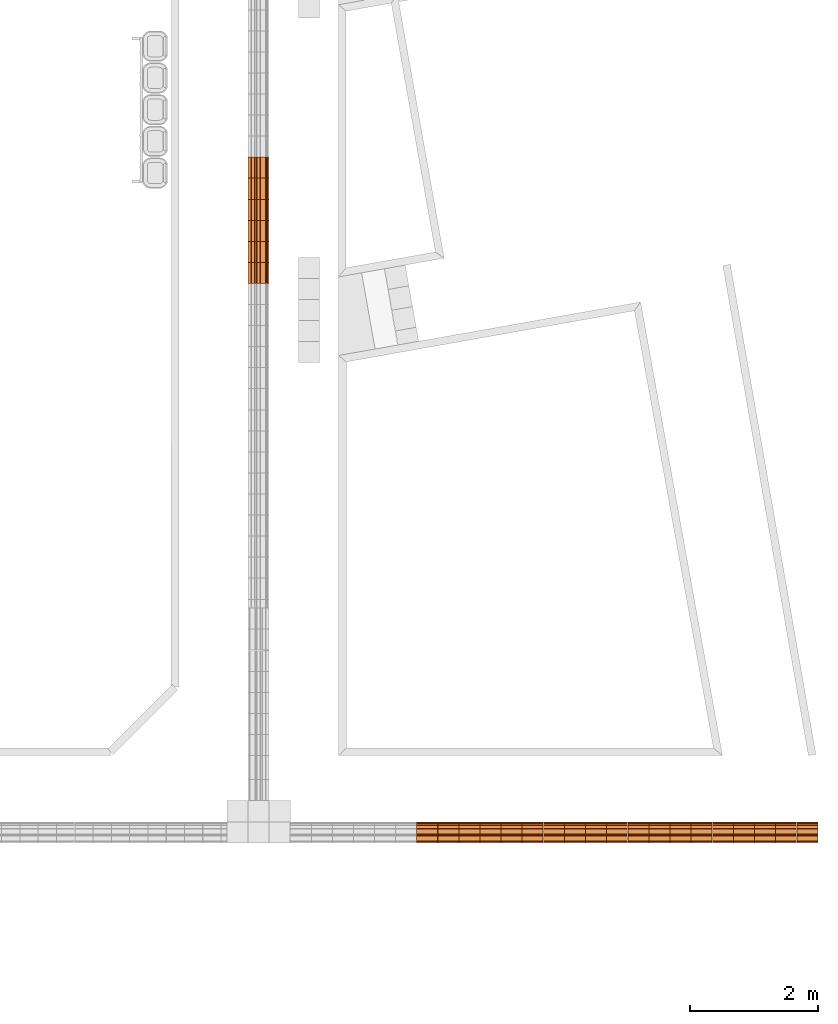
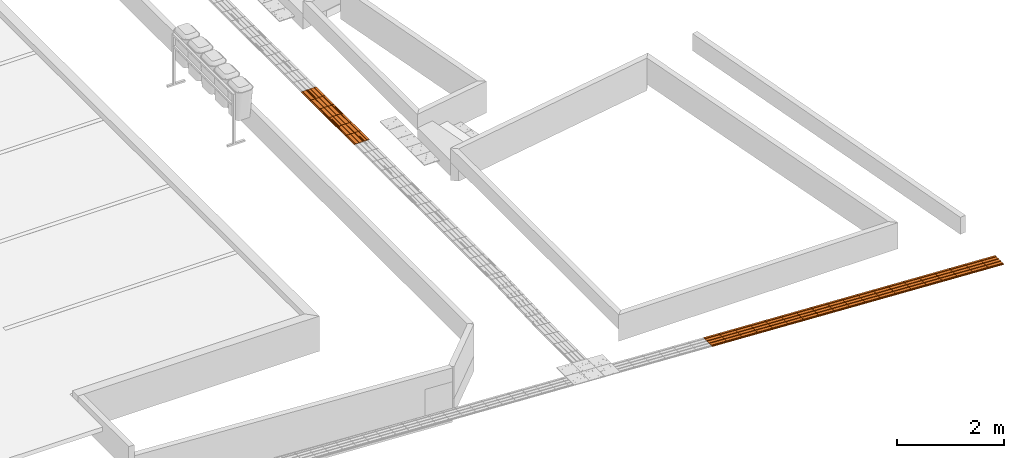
# One storey, part 194 of 237: 25 proxies.
"""IFC2X3 building model written with IfcOpenShell, lengths in millimetres."""

from ifc_helpers import new_model, entity, si_unit, converted_unit, derived_unit, money_unit, direction, frame, origin_with_axes, place, context, subcontext, project, spatial, open_shell, surface_model, source, transform, mapped, type_object, element, save


model = new_model("IFC2X3")

# Units and contexts
model_context = context("Model", 3, precision=0.01, world=origin_with_axes(), true_north=direction((0.0, 1.0)))
body_context = subcontext(model_context, "Body", "Model", "MODEL_VIEW")
ifc_project = project(units=[si_unit("LENGTHUNIT", "METRE", prefix="MILLI"), si_unit("AREAUNIT", "SQUARE_METRE"), si_unit("VOLUMEUNIT", "CUBIC_METRE"), converted_unit("PLANEANGLEUNIT", "DEGREE", entity("IfcPlaneAngleMeasure", 0.0174532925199), si_unit("PLANEANGLEUNIT", "RADIAN"), dimensions=[0, 0, 0, 0, 0, 0, 0]), money_unit("USD"), converted_unit("TIMEUNIT", "Year", entity("IfcTimeMeasure", 31556926.0), si_unit("TIMEUNIT", "SECOND"), dimensions=[0, 0, 1, 0, 0, 0, 0]), si_unit("MASSUNIT", "GRAM", prefix="KILO"), si_unit("THERMODYNAMICTEMPERATUREUNIT", "DEGREE_CELSIUS"), si_unit("LUMINOUSINTENSITYUNIT", "LUMEN"), si_unit("ENERGYUNIT", "JOULE", prefix="MEGA"), derived_unit("THERMALCONDUCTANCEUNIT", [(si_unit("POWERUNIT", "WATT"), 1), (si_unit("LENGTHUNIT", "METRE"), -1), (si_unit("THERMODYNAMICTEMPERATUREUNIT", "KELVIN"), -1)]), derived_unit("SPECIFICHEATCAPACITYUNIT", [(si_unit("ENERGYUNIT", "JOULE"), 1), (si_unit("MASSUNIT", "GRAM", prefix="KILO"), -1), (si_unit("THERMODYNAMICTEMPERATUREUNIT", "KELVIN"), -1)]), derived_unit("MASSDENSITYUNIT", [(si_unit("MASSUNIT", "GRAM", prefix="KILO"), 1), (si_unit("VOLUMEUNIT", "CUBIC_METRE"), -1)])], contexts=[model_context])

# Site, building, storey
site_placement = place(None, origin_with_axes())
site = spatial("IfcSite", under=ifc_project, at=site_placement, Name="Local", CompositionType="ELEMENT")
building_placement = place(site_placement, origin_with_axes())
building = spatial("IfcBuilding", under=site, at=building_placement, Name="Construção", CompositionType="ELEMENT")
storey_placement = place(building_placement, origin_with_axes())
storey = spatial("IfcBuildingStorey", under=building, at=storey_placement, Name="Pavimento Térreo", CompositionType="ELEMENT", Elevation=0.0)

# Proxies
building_element_proxy_type = type_object("IfcBuildingElementProxyType", Name="Piso Direcional 27", PredefinedType="NOTDEFINED")
shared_shape_1 = source(origin_with_axes(), body_context, "Body", "SurfaceModel", [
    surface_model("IfcShellBasedSurfaceModel", [(0.0, -47.258225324, 4.02852049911), (330.0, -47.258225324, 4.02852049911), (330.0, -41.665004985, 10.6951871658), (0.0, -41.665004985, 10.6951871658)], [open_shell([[[0, 1, 2, 3]]])]),
    surface_model("IfcShellBasedSurfaceModel", [(330.0, -153.529411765, -9.30481283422), (330.0, 176.470588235, -9.30481283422), (330.0, 176.470588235, 4.02852049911), (330.0, 154.097706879, 4.02852049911), (330.0, 148.50448654, 10.6951871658), (330.0, 126.131605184, 10.6951871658), (330.0, 120.538384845, 4.02852049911), (330.0, 70.1994017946, 4.02852049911), (330.0, 64.6061814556, 10.6951871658), (330.0, 42.2333000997, 10.6951871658), (330.0, 36.6400797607, 4.02852049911), (330.0, -13.6989032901, 4.02852049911), (330.0, -19.2921236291, 10.6951871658), (330.0, -41.665004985, 10.6951871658), (330.0, -47.258225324, 4.02852049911), (330.0, -97.5972083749, 4.02852049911), (330.0, -103.190428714, 10.6951871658), (330.0, -125.56331007, 10.6951871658), (330.0, -131.156530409, 4.02852049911), (330.0, -153.529411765, 4.02852049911)], [open_shell([[[0, 1, 2, 3, 4, 5, 6, 7, 8, 9, 10, 11, 12, 13, 14, 15, 16, 17, 18, 19]]])]),
    surface_model("IfcShellBasedSurfaceModel", [(0.0, -19.2921236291, 10.6951871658), (330.0, -19.2921236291, 10.6951871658), (330.0, -13.6989032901, 4.02852049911), (0.0, -13.6989032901, 4.02852049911)], [open_shell([[[0, 1, 2, 3]]])]),
    surface_model("IfcShellBasedSurfaceModel", [(0.0, -103.190428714, 10.6951871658), (330.0, -103.190428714, 10.6951871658), (330.0, -97.5972083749, 4.02852049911), (0.0, -97.5972083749, 4.02852049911)], [open_shell([[[0, 1, 2, 3]]])]),
    surface_model("IfcShellBasedSurfaceModel", [(0.0, 64.6061814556, 10.6951871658), (330.0, 64.6061814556, 10.6951871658), (330.0, 70.1994017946, 4.02852049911), (0.0, 70.1994017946, 4.02852049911)], [open_shell([[[0, 1, 2, 3]]])]),
    surface_model("IfcShellBasedSurfaceModel", [(0.0, 36.6400797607, 4.02852049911), (330.0, 36.6400797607, 4.02852049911), (330.0, 42.2333000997, 10.6951871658), (0.0, 42.2333000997, 10.6951871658)], [open_shell([[[0, 1, 2, 3]]])]),
    surface_model("IfcShellBasedSurfaceModel", [(0.0, -131.156530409, 4.02852049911), (330.0, -131.156530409, 4.02852049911), (330.0, -125.56331007, 10.6951871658), (0.0, -125.56331007, 10.6951871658)], [open_shell([[[0, 1, 2, 3]]])]),
    surface_model("IfcShellBasedSurfaceModel", [(0.0, 176.470588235, 4.02852049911), (0.0, 154.097706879, 4.02852049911), (330.0, 154.097706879, 4.02852049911), (330.0, 176.470588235, 4.02852049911)], [open_shell([[[0, 1, 2, 3]]])]),
    surface_model("IfcShellBasedSurfaceModel", [(0.0, 120.538384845, 4.02852049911), (330.0, 120.538384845, 4.02852049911), (330.0, 126.131605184, 10.6951871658), (0.0, 126.131605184, 10.6951871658)], [open_shell([[[0, 1, 2, 3]]])]),
    surface_model("IfcShellBasedSurfaceModel", [(0.0, 148.50448654, 10.6951871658), (330.0, 148.50448654, 10.6951871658), (330.0, 154.097706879, 4.02852049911), (0.0, 154.097706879, 4.02852049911)], [open_shell([[[0, 1, 2, 3]]])]),
    surface_model("IfcShellBasedSurfaceModel", [(0.0, 36.6400797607, 4.02852049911), (0.0, -13.6989032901, 4.02852049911), (330.0, -13.6989032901, 4.02852049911), (330.0, 36.6400797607, 4.02852049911)], [open_shell([[[0, 1, 2, 3]]])]),
    surface_model("IfcShellBasedSurfaceModel", [(0.0, 120.538384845, 4.02852049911), (0.0, 70.1994017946, 4.02852049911), (330.0, 70.1994017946, 4.02852049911), (330.0, 120.538384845, 4.02852049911)], [open_shell([[[0, 1, 2, 3]]])]),
    surface_model("IfcShellBasedSurfaceModel", [(0.0, 148.50448654, 10.6951871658), (0.0, 126.131605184, 10.6951871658), (330.0, 126.131605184, 10.6951871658), (330.0, 148.50448654, 10.6951871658)], [open_shell([[[0, 1, 2, 3]]])]),
    surface_model("IfcShellBasedSurfaceModel", [(0.0, 120.538384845, 4.02852049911), (0.0, 126.131605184, 10.6951871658), (0.0, 148.50448654, 10.6951871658), (0.0, 154.097706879, 4.02852049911), (0.0, 176.470588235, 4.02852049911), (0.0, 176.470588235, -9.30481283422), (0.0, -153.529411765, -9.30481283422), (0.0, -153.529411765, 4.02852049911), (0.0, -131.156530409, 4.02852049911), (0.0, -125.56331007, 10.6951871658), (0.0, -103.190428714, 10.6951871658), (0.0, -97.5972083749, 4.02852049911), (0.0, -47.258225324, 4.02852049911), (0.0, -41.665004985, 10.6951871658), (0.0, -19.2921236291, 10.6951871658), (0.0, -13.6989032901, 4.02852049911), (0.0, 36.6400797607, 4.02852049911), (0.0, 42.2333000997, 10.6951871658), (0.0, 64.6061814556, 10.6951871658), (0.0, 70.1994017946, 4.02852049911)], [open_shell([[[0, 1, 2, 3, 4, 5, 6, 7, 8, 9, 10, 11, 12, 13, 14, 15, 16, 17, 18, 19]]])]),
    surface_model("IfcShellBasedSurfaceModel", [(330.0, -41.665004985, 10.6951871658), (330.0, -19.2921236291, 10.6951871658), (0.0, -19.2921236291, 10.6951871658), (0.0, -41.665004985, 10.6951871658)], [open_shell([[[0, 1, 2, 3]]])]),
    surface_model("IfcShellBasedSurfaceModel", [(0.0, -47.258225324, 4.02852049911), (0.0, -97.5972083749, 4.02852049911), (330.0, -97.5972083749, 4.02852049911), (330.0, -47.258225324, 4.02852049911)], [open_shell([[[0, 1, 2, 3]]])]),
    surface_model("IfcShellBasedSurfaceModel", [(330.0, 42.2333000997, 10.6951871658), (330.0, 64.6061814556, 10.6951871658), (0.0, 64.6061814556, 10.6951871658), (0.0, 42.2333000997, 10.6951871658)], [open_shell([[[0, 1, 2, 3]]])]),
    surface_model("IfcShellBasedSurfaceModel", [(330.0, -125.56331007, 10.6951871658), (330.0, -103.190428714, 10.6951871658), (0.0, -103.190428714, 10.6951871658), (0.0, -125.56331007, 10.6951871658)], [open_shell([[[0, 1, 2, 3]]])]),
    surface_model("IfcShellBasedSurfaceModel", [(330.0, 176.470588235, -9.30481283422), (0.0, 176.470588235, -9.30481283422), (0.0, 176.470588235, 4.02852049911), (330.0, 176.470588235, 4.02852049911)], [open_shell([[[0, 1, 2, 3]]])]),
    surface_model("IfcShellBasedSurfaceModel", [(330.0, -153.529411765, -9.30481283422), (0.0, -153.529411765, -9.30481283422), (0.0, 176.470588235, -9.30481283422), (330.0, 176.470588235, -9.30481283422)], [open_shell([[[0, 1, 2, 3]]])]),
    surface_model("IfcShellBasedSurfaceModel", [(330.0, -153.529411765, 4.02852049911), (330.0, -131.156530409, 4.02852049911), (0.0, -131.156530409, 4.02852049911), (0.0, -153.529411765, 4.02852049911)], [open_shell([[[0, 1, 2, 3]]])]),
    surface_model("IfcShellBasedSurfaceModel", [(0.0, -153.529411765, -9.30481283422), (330.0, -153.529411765, -9.30481283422), (330.0, -153.529411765, 4.02852049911), (0.0, -153.529411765, 4.02852049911)], [open_shell([[[0, 1, 2, 3]]])]),
])
for number, where, z_axis, x_axis, name in (
    (1, (135346.086311, 21403.8682381, -7938.92704592), (0.0, 0.0, 1.0), (0.0, -1.0, 0.0), "Objeto-0055"),
    (2, (135346.086311, 21073.898202, -7938.92704592), (0.0, 0.0, 1.0), (0.0, -1.0, 0.0), "Objeto-0055"),
    (3, (135346.086311, 20743.9281659, -7938.92704592), (0.0, 0.0, 1.0), (0.0, -1.0, 0.0), "Objeto-0055"),
    (4, (135346.086311, 20413.9581298, -7938.92704592), (0.0, 0.0, 1.0), (0.0, -1.0, 0.0), "Objeto-0055"),
    (5, (135346.086311, 20083.9880936, -7938.92704592), (0.0, 0.0, 1.0), (0.0, -1.0, 0.0), "Objeto-0055"),
    (6, (135346.086311, 19754.0180575, -7938.92704592), (0.0, 0.0, 1.0), (0.0, -1.0, 0.0), "Objeto-0055"),
):
    element("IfcBuildingElementProxy", number, at=place(storey_placement, frame(where, z_axis=z_axis, x_axis=x_axis)), inside=storey, type_object=building_element_proxy_type, Name=name, context=body_context, shape_type="MappedRepresentation", body=[
        mapped(shared_shape_1, transform((0.0, 0.0, 0.0))),
    ])
shared_shape_2 = source(origin_with_axes(), body_context, "Body", "SurfaceModel", [
    surface_model("IfcShellBasedSurfaceModel", [(-0.210134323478, -47.258225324, 4.02303628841), (329.340621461, -47.258225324, 21.2363846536), (328.992877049, -41.665004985, 27.8939756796), (-0.557878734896, -41.665004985, 10.6806273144)], [open_shell([[[0, 1, 2, 3]]])]),
    surface_model("IfcShellBasedSurfaceModel", [(330.036110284, -153.529411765, 7.92120260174), (330.036110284, 176.470588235, 7.92120260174), (329.340621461, 176.470588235, 21.2363846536), (329.340621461, 154.097706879, 21.2363846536), (328.992877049, 148.50448654, 27.8939756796), (328.992877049, 126.131605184, 27.8939756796), (329.340621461, 120.538384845, 21.2363846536), (329.340621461, 70.1994017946, 21.2363846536), (328.992877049, 64.6061814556, 27.8939756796), (328.992877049, 42.2333000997, 27.8939756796), (329.340621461, 36.6400797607, 21.2363846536), (329.340621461, -13.6989032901, 21.2363846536), (328.992877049, -19.2921236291, 27.8939756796), (328.992877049, -41.665004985, 27.8939756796), (329.340621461, -47.258225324, 21.2363846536), (329.340621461, -97.5972083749, 21.2363846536), (328.992877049, -103.190428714, 27.8939756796), (328.992877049, -125.56331007, 27.8939756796), (329.340621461, -131.156530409, 21.2363846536), (329.340621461, -153.529411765, 21.2363846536)], [open_shell([[[0, 1, 2, 3, 4, 5, 6, 7, 8, 9, 10, 11, 12, 13, 14, 15, 16, 17, 18, 19]]])]),
    surface_model("IfcShellBasedSurfaceModel", [(-0.557878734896, -19.2921236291, 10.6806273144), (328.992877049, -19.2921236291, 27.8939756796), (329.340621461, -13.6989032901, 21.2363846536), (-0.210134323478, -13.6989032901, 4.02303628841)], [open_shell([[[0, 1, 2, 3]]])]),
    surface_model("IfcShellBasedSurfaceModel", [(-0.557878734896, -103.190428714, 10.6806273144), (328.992877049, -103.190428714, 27.8939756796), (329.340621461, -97.5972083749, 21.2363846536), (-0.210134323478, -97.5972083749, 4.02303628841)], [open_shell([[[0, 1, 2, 3]]])]),
    surface_model("IfcShellBasedSurfaceModel", [(-0.557878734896, 64.6061814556, 10.6806273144), (328.992877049, 64.6061814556, 27.8939756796), (329.340621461, 70.1994017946, 21.2363846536), (-0.210134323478, 70.1994017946, 4.02303628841)], [open_shell([[[0, 1, 2, 3]]])]),
    surface_model("IfcShellBasedSurfaceModel", [(-0.210134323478, 36.6400797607, 4.02303628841), (329.340621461, 36.6400797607, 21.2363846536), (328.992877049, 42.2333000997, 27.8939756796), (-0.557878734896, 42.2333000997, 10.6806273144)], [open_shell([[[0, 1, 2, 3]]])]),
    surface_model("IfcShellBasedSurfaceModel", [(-0.210134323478, -131.156530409, 4.02303628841), (329.340621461, -131.156530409, 21.2363846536), (328.992877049, -125.56331007, 27.8939756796), (-0.557878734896, -125.56331007, 10.6806273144)], [open_shell([[[0, 1, 2, 3]]])]),
    surface_model("IfcShellBasedSurfaceModel", [(-0.210134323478, 176.470588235, 4.02303628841), (-0.210134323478, 154.097706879, 4.02303628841), (329.340621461, 154.097706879, 21.2363846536), (329.340621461, 176.470588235, 21.2363846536)], [open_shell([[[0, 1, 2, 3]]])]),
    surface_model("IfcShellBasedSurfaceModel", [(-0.210134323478, 120.538384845, 4.02303628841), (329.340621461, 120.538384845, 21.2363846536), (328.992877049, 126.131605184, 27.8939756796), (-0.557878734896, 126.131605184, 10.6806273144)], [open_shell([[[0, 1, 2, 3]]])]),
    surface_model("IfcShellBasedSurfaceModel", [(-0.557878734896, 148.50448654, 10.6806273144), (328.992877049, 148.50448654, 27.8939756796), (329.340621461, 154.097706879, 21.2363846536), (-0.210134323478, 154.097706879, 4.02303628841)], [open_shell([[[0, 1, 2, 3]]])]),
    surface_model("IfcShellBasedSurfaceModel", [(-0.210134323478, 36.6400797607, 4.02303628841), (-0.210134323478, -13.6989032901, 4.02303628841), (329.340621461, -13.6989032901, 21.2363846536), (329.340621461, 36.6400797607, 21.2363846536)], [open_shell([[[0, 1, 2, 3]]])]),
    surface_model("IfcShellBasedSurfaceModel", [(-0.210134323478, 120.538384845, 4.02303628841), (-0.210134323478, 70.1994017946, 4.02303628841), (329.340621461, 70.1994017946, 21.2363846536), (329.340621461, 120.538384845, 21.2363846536)], [open_shell([[[0, 1, 2, 3]]])]),
    surface_model("IfcShellBasedSurfaceModel", [(-0.557878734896, 148.50448654, 10.6806273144), (-0.557878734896, 126.131605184, 10.6806273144), (328.992877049, 126.131605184, 27.8939756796), (328.992877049, 148.50448654, 27.8939756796)], [open_shell([[[0, 1, 2, 3]]])]),
    surface_model("IfcShellBasedSurfaceModel", [(-0.210134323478, 120.538384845, 4.02303628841), (-0.557878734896, 126.131605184, 10.6806273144), (-0.557878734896, 148.50448654, 10.6806273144), (-0.210134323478, 154.097706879, 4.02303628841), (-0.210134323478, 176.470588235, 4.02303628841), (0.48535449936, 176.470588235, -9.29214576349), (0.48535449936, -153.529411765, -9.29214576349), (-0.210134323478, -153.529411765, 4.02303628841), (-0.210134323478, -131.156530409, 4.02303628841), (-0.557878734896, -125.56331007, 10.6806273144), (-0.557878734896, -103.190428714, 10.6806273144), (-0.210134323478, -97.5972083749, 4.02303628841), (-0.210134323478, -47.258225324, 4.02303628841), (-0.557878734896, -41.665004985, 10.6806273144), (-0.557878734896, -19.2921236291, 10.6806273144), (-0.210134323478, -13.6989032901, 4.02303628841), (-0.210134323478, 36.6400797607, 4.02303628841), (-0.557878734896, 42.2333000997, 10.6806273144), (-0.557878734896, 64.6061814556, 10.6806273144), (-0.210134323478, 70.1994017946, 4.02303628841)], [open_shell([[[0, 1, 2, 3, 4, 5, 6, 7, 8, 9, 10, 11, 12, 13, 14, 15, 16, 17, 18, 19]]])]),
    surface_model("IfcShellBasedSurfaceModel", [(328.992877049, -41.665004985, 27.8939756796), (328.992877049, -19.2921236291, 27.8939756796), (-0.557878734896, -19.2921236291, 10.6806273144), (-0.557878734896, -41.665004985, 10.6806273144)], [open_shell([[[0, 1, 2, 3]]])]),
    surface_model("IfcShellBasedSurfaceModel", [(-0.210134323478, -47.258225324, 4.02303628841), (-0.210134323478, -97.5972083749, 4.02303628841), (329.340621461, -97.5972083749, 21.2363846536), (329.340621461, -47.258225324, 21.2363846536)], [open_shell([[[0, 1, 2, 3]]])]),
    surface_model("IfcShellBasedSurfaceModel", [(328.992877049, 42.2333000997, 27.8939756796), (328.992877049, 64.6061814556, 27.8939756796), (-0.557878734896, 64.6061814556, 10.6806273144), (-0.557878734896, 42.2333000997, 10.6806273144)], [open_shell([[[0, 1, 2, 3]]])]),
    surface_model("IfcShellBasedSurfaceModel", [(328.992877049, -125.56331007, 27.8939756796), (328.992877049, -103.190428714, 27.8939756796), (-0.557878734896, -103.190428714, 10.6806273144), (-0.557878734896, -125.56331007, 10.6806273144)], [open_shell([[[0, 1, 2, 3]]])]),
    surface_model("IfcShellBasedSurfaceModel", [(330.036110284, 176.470588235, 7.92120260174), (0.48535449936, 176.470588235, -9.29214576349), (-0.210134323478, 176.470588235, 4.02303628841), (329.340621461, 176.470588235, 21.2363846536)], [open_shell([[[0, 1, 2, 3]]])]),
    surface_model("IfcShellBasedSurfaceModel", [(330.036110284, -153.529411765, 7.92120260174), (0.48535449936, -153.529411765, -9.29214576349), (0.48535449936, 176.470588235, -9.29214576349), (330.036110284, 176.470588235, 7.92120260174)], [open_shell([[[0, 1, 2, 3]]])]),
    surface_model("IfcShellBasedSurfaceModel", [(329.340621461, -153.529411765, 21.2363846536), (329.340621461, -131.156530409, 21.2363846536), (-0.210134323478, -131.156530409, 4.02303628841), (-0.210134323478, -153.529411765, 4.02303628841)], [open_shell([[[0, 1, 2, 3]]])]),
    surface_model("IfcShellBasedSurfaceModel", [(0.48535449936, -153.529411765, -9.29214576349), (330.036110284, -153.529411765, 7.92120260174), (329.340621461, -153.529411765, 21.2363846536), (-0.210134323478, -153.529411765, 4.02303628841)], [open_shell([[[0, 1, 2, 3]]])]),
])
for number, where, z_axis, x_axis, name in (
    (7, (144123.571293, 10833.7502046, -8470.76856921), (0.0, 0.0, 1.0), (-1.0, 0.0, 0.0), "Objeto-0055"),
    (8, (139158.014169, 10833.7502046, -8211.403773), (0.0, 0.0, 1.0), (-1.0, 0.0, 0.0), "Objeto-0055"),
    (9, (138827.470127, 10833.7502046, -8194.13854256), (0.0, 0.0, 1.0), (-1.0, 0.0, 0.0), "Objeto-0055"),
    (10, (138496.926085, 10833.7502046, -8176.87331213), (0.0, 0.0, 1.0), (-1.0, 0.0, 0.0), "Objeto-0055"),
    (11, (139488.55821, 10833.7502046, -8228.66900343), (0.0, 0.0, 1.0), (-1.0, 0.0, 0.0), "Objeto-0055"),
    (12, (138166.382044, 10833.7502046, -8159.6080817), (0.0, 0.0, 1.0), (-1.0, 0.0, 0.0), "Objeto-0055"),
    (13, (139819.630573, 10833.7502046, -8245.96182956), (0.0, 0.0, 1.0), (-1.0, 0.0, 0.0), "Objeto-0055"),
    (14, (140150.702936, 10833.7502046, -8263.25465569), (0.0, 0.0, 1.0), (-1.0, 0.0, 0.0), "Objeto-0055"),
    (15, (140481.7753, 10833.7502046, -8280.54748181), (0.0, 0.0, 1.0), (-1.0, 0.0, 0.0), "Objeto-0055"),
    (16, (140812.847663, 10833.7502046, -8297.84030794), (0.0, 0.0, 1.0), (-1.0, 0.0, 0.0), "Objeto-0055"),
    (17, (141143.920026, 10833.7502046, -8315.13313407), (0.0, 0.0, 1.0), (-1.0, 0.0, 0.0), "Objeto-0055"),
    (18, (141474.992389, 10833.7502046, -8332.42596019), (0.0, 0.0, 1.0), (-1.0, 0.0, 0.0), "Objeto-0055"),
    (19, (141806.064752, 10833.7502046, -8349.71878632), (0.0, 0.0, 1.0), (-1.0, 0.0, 0.0), "Objeto-0055"),
    (20, (142137.137115, 10833.7502046, -8367.01161245), (0.0, 0.0, 1.0), (-1.0, 0.0, 0.0), "Objeto-0055"),
    (21, (142468.209478, 10833.7502046, -8384.30443858), (0.0, 0.0, 1.0), (-1.0, 0.0, 0.0), "Objeto-0055"),
    (22, (142799.281841, 10833.7502046, -8401.5972647), (0.0, 0.0, 1.0), (-1.0, 0.0, 0.0), "Objeto-0055"),
    (23, (143130.354204, 10833.7502046, -8418.89009083), (0.0, 0.0, 1.0), (-1.0, 0.0, 0.0), "Objeto-0055"),
    (24, (143461.426567, 10833.7502046, -8436.18291696), (0.0, 0.0, 1.0), (-1.0, 0.0, 0.0), "Objeto-0055"),
    (25, (143792.49893, 10833.7502046, -8453.47574308), (0.0, 0.0, 1.0), (-1.0, 0.0, 0.0), "Objeto-0055"),
):
    element("IfcBuildingElementProxy", number, at=place(storey_placement, frame(where, z_axis=z_axis, x_axis=x_axis)), inside=storey, type_object=building_element_proxy_type, Name=name, context=body_context, shape_type="MappedRepresentation", body=[
        mapped(shared_shape_2, transform((0.0, 0.0, 0.0))),
    ])

save(model, "model.ifc")
